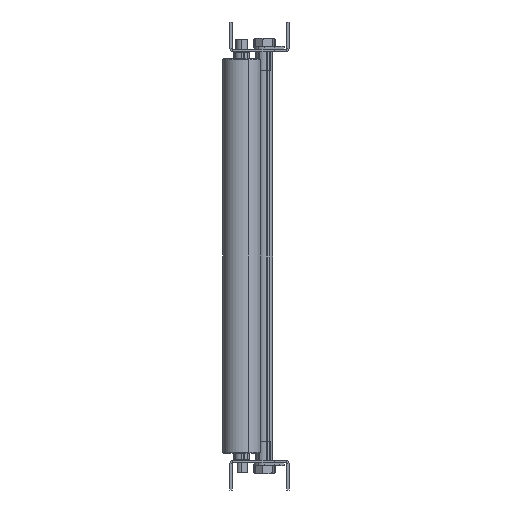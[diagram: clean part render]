
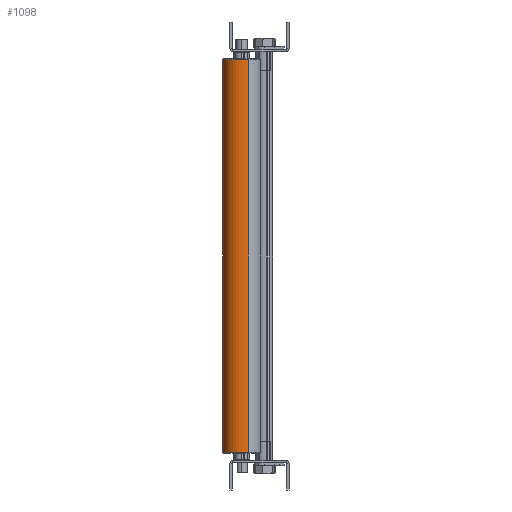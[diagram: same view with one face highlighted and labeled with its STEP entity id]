
A CAD part, left-side view. The second image highlights one B-rep face of the part: STEP entity #1098.
In plain terms, the highlighted cylindrical face has radius 19.05 mm (diameter 38.1 mm), a partial arc.
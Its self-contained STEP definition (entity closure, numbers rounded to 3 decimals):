
#813 = EDGE_LOOP ( 'NONE', ( #11436, #17625, #23969, #21350 ) ) ;
#1098 = ADVANCED_FACE ( 'NONE', ( #4502 ), #15074, .T. ) ;
#1970 = VECTOR ( 'NONE', #7831, 1000. ) ;
#2017 = VERTEX_POINT ( 'NONE', #8047 ) ;
#2077 = EDGE_CURVE ( 'NONE', #5557, #26034, #23143, .T. ) ;
#2805 = CARTESIAN_POINT ( 'NONE',  ( 50., 48., -10.8 ) ) ;
#3432 = CIRCLE ( 'NONE', #32991, 19.05 ) ;
#3641 = DIRECTION ( 'NONE',  ( 0.924, 0.383, 0. ) ) ;
#4502 = FACE_OUTER_BOUND ( 'NONE', #813, .T. ) ;
#4666 = CARTESIAN_POINT ( 'NONE',  ( 50., 48., -757.341 ) ) ;
#5557 = VERTEX_POINT ( 'NONE', #10205 ) ;
#7281 = DIRECTION ( 'NONE',  ( 0., 0., -1. ) ) ;
#7831 = DIRECTION ( 'NONE',  ( 0., 0., -1. ) ) ;
#8047 = CARTESIAN_POINT ( 'NONE',  ( 32.403, 40.703, -408.8 ) ) ;
#8787 = DIRECTION ( 'NONE',  ( -0.924, -0.383, 0. ) ) ;
#10205 = CARTESIAN_POINT ( 'NONE',  ( 67.597, 55.297, -10.8 ) ) ;
#11436 = ORIENTED_EDGE ( 'NONE', *, *, #23587, .F. ) ;
#11499 = CIRCLE ( 'NONE', #30297, 19.05 ) ;
#12404 = DIRECTION ( 'NONE',  ( 0., 0., -1. ) ) ;
#12889 = CARTESIAN_POINT ( 'NONE',  ( 67.597, 55.297, -757.341 ) ) ;
#15074 = CYLINDRICAL_SURFACE ( 'NONE', #31243, 19.05 ) ;
#16858 = CARTESIAN_POINT ( 'NONE',  ( 32.403, 40.703, -757.341 ) ) ;
#17625 = ORIENTED_EDGE ( 'NONE', *, *, #27662, .T. ) ;
#20342 = CARTESIAN_POINT ( 'NONE',  ( 67.597, 55.297, -408.8 ) ) ;
#21350 = ORIENTED_EDGE ( 'NONE', *, *, #27024, .T. ) ;
#22264 = CARTESIAN_POINT ( 'NONE',  ( 50., 48., -408.8 ) ) ;
#23143 = LINE ( 'NONE', #12889, #1970 ) ;
#23587 = EDGE_CURVE ( 'NONE', #27767, #2017, #32697, .T. ) ;
#23969 = ORIENTED_EDGE ( 'NONE', *, *, #2077, .T. ) ;
#24159 = DIRECTION ( 'NONE',  ( 0., 0., -1. ) ) ;
#24619 = DIRECTION ( 'NONE',  ( 0., 0., 1. ) ) ;
#26034 = VERTEX_POINT ( 'NONE', #20342 ) ;
#27024 = EDGE_CURVE ( 'NONE', #26034, #2017, #3432, .T. ) ;
#27526 = DIRECTION ( 'NONE',  ( 0.924, 0.383, 0. ) ) ;
#27662 = EDGE_CURVE ( 'NONE', #27767, #5557, #11499, .T. ) ;
#27767 = VERTEX_POINT ( 'NONE', #29523 ) ;
#28016 = VECTOR ( 'NONE', #7281, 1000. ) ;
#29523 = CARTESIAN_POINT ( 'NONE',  ( 32.403, 40.703, -10.8 ) ) ;
#30297 = AXIS2_PLACEMENT_3D ( 'NONE', #2805, #24159, #3641 ) ;
#31243 = AXIS2_PLACEMENT_3D ( 'NONE', #4666, #12404, #27526 ) ;
#32697 = LINE ( 'NONE', #16858, #28016 ) ;
#32991 = AXIS2_PLACEMENT_3D ( 'NONE', #22264, #24619, #8787 ) ;
